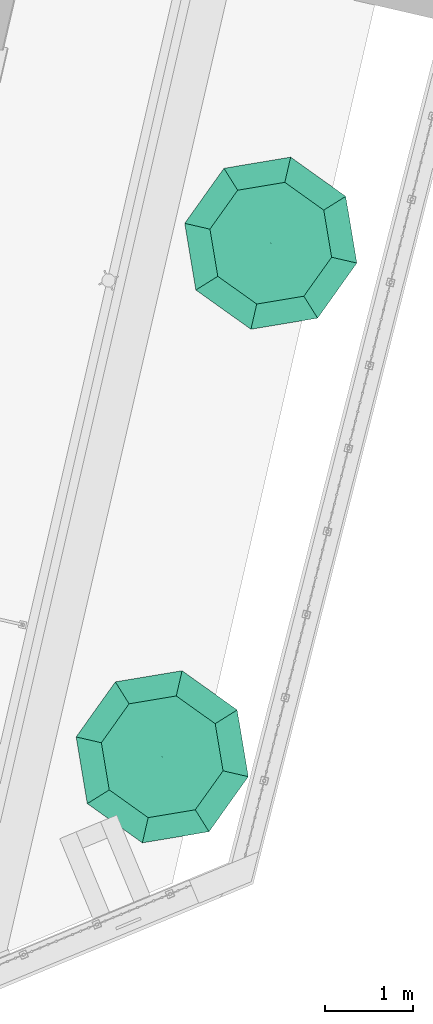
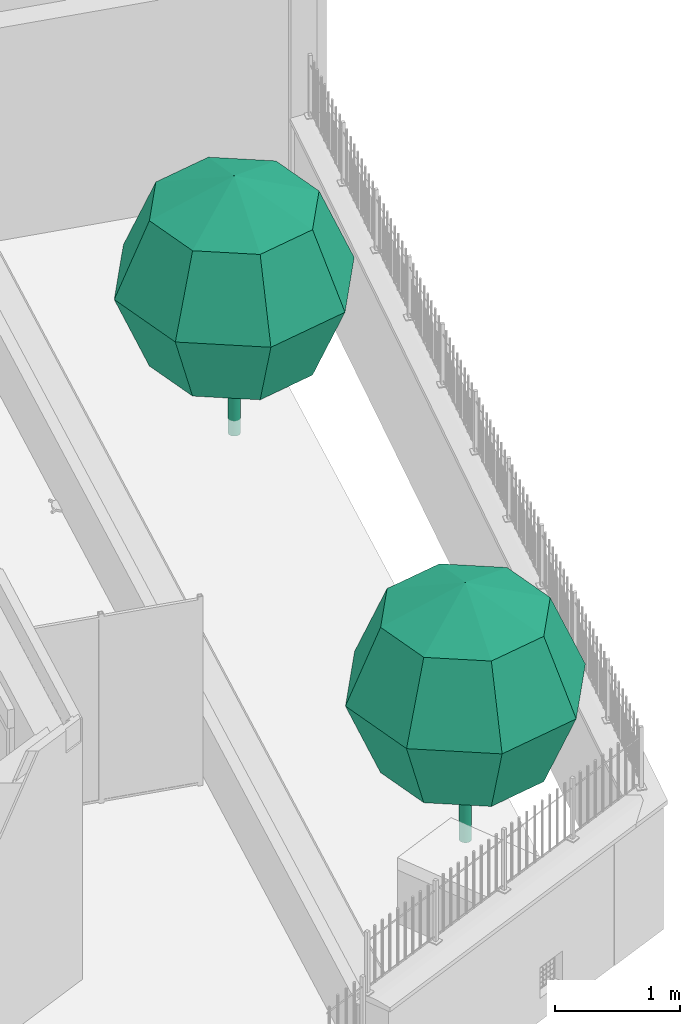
# One storey, part 101 of 119: 2 flow terminals.
"""IFC2X3 building model written with IfcOpenShell, lengths in metres."""

from ifc_helpers import new_model, entity, si_unit, converted_unit, derived_unit, money_unit, direction, frame, origin_with_axes, place, context, subcontext, project, spatial, faceted_brep, source, transform, mapped, type_object, element, save


model = new_model("IFC2X3")

# Units and contexts
model_context = context("Model", 3, precision=1e-05, world=origin_with_axes(), true_north=direction((0.0, 1.0)))
body_context = subcontext(model_context, "Body", "Model", "MODEL_VIEW")
ifc_project = project(units=[si_unit("LENGTHUNIT", "METRE"), si_unit("AREAUNIT", "SQUARE_METRE"), si_unit("VOLUMEUNIT", "CUBIC_METRE"), converted_unit("PLANEANGLEUNIT", "DEGREE", entity("IfcPlaneAngleMeasure", 0.0174532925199), si_unit("PLANEANGLEUNIT", "RADIAN"), dimensions=[0, 0, 0, 0, 0, 0, 0]), si_unit("SOLIDANGLEUNIT", "STERADIAN"), money_unit("EUR"), converted_unit("TIMEUNIT", "Year", entity("IfcTimeMeasure", 31556926.0), si_unit("TIMEUNIT", "SECOND"), dimensions=[0, 0, 1, 0, 0, 0, 0]), si_unit("MASSUNIT", "GRAM", prefix="KILO"), si_unit("THERMODYNAMICTEMPERATUREUNIT", "DEGREE_CELSIUS"), si_unit("LUMINOUSINTENSITYUNIT", "LUMEN"), si_unit("ENERGYUNIT", "JOULE", prefix="MEGA"), derived_unit("THERMALCONDUCTANCEUNIT", [(si_unit("POWERUNIT", "WATT"), 1), (si_unit("LENGTHUNIT", "METRE"), -1), (si_unit("THERMODYNAMICTEMPERATUREUNIT", "KELVIN"), -1)]), derived_unit("SPECIFICHEATCAPACITYUNIT", [(si_unit("ENERGYUNIT", "JOULE"), 1), (si_unit("MASSUNIT", "GRAM", prefix="KILO"), -1), (si_unit("THERMODYNAMICTEMPERATUREUNIT", "KELVIN"), -1)]), derived_unit("MASSDENSITYUNIT", [(si_unit("MASSUNIT", "GRAM", prefix="KILO"), 1), (si_unit("VOLUMEUNIT", "CUBIC_METRE"), -1)])], contexts=[model_context])

# Site, building, storey
site_placement = place(None, origin_with_axes())
site = spatial("IfcSite", under=ifc_project, at=site_placement, Name="Site", CompositionType="ELEMENT")
building_placement = place(site_placement, origin_with_axes())
building = spatial("IfcBuilding", under=site, at=building_placement, Name="Bâtiment", CompositionType="ELEMENT")
storey_placement = place(building_placement, origin_with_axes())
storey = spatial("IfcBuildingStorey", under=building, at=storey_placement, Name="Rez-de-chaussée", CompositionType="ELEMENT", Elevation=0.0)

# Flow terminals
air_terminal_type = type_object("IfcAirTerminalType", Name="Modèle arbre conceptuel 23", PredefinedType="NOTDEFINED")
shared_shape = source(origin_with_axes(), body_context, "Body", "Brep", [
    faceted_brep([(-0.0492403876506, -0.00868240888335, 0.0), (-0.05, 0.0, 0.0), (-0.0492403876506, 0.00868240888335, 0.0), (-0.0469846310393, 0.0171010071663, 0.0), (-0.0433012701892, 0.025, 0.0), (-0.0383022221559, 0.0321393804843, 0.0), (-0.0321393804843, 0.0383022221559, 0.0), (-0.025, 0.0433012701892, 0.0), (-0.0171010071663, 0.0469846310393, 0.0), (-0.00868240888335, 0.0492403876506, 0.0), (0.0, 0.05, 0.0), (0.00868240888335, 0.0492403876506, 0.0), (0.0171010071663, 0.0469846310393, 0.0), (0.025, 0.0433012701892, 0.0), (0.0321393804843, 0.0383022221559, 0.0), (0.0383022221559, 0.0321393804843, 0.0), (0.0433012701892, 0.025, 0.0), (0.0469846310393, 0.0171010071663, 0.0), (0.0492403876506, 0.00868240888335, 0.0), (0.05, 0.0, 0.0), (0.0492403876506, -0.00868240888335, 0.0), (0.0469846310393, -0.0171010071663, 0.0), (0.0433012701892, -0.025, 0.0), (0.0383022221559, -0.0321393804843, 0.0), (0.0321393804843, -0.0383022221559, 0.0), (0.025, -0.0433012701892, 0.0), (0.0171010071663, -0.0469846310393, 0.0), (0.00868240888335, -0.0492403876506, 0.0), (0.0, -0.05, 0.0), (-0.00868240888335, -0.0492403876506, 0.0), (-0.0171010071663, -0.0469846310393, 0.0), (-0.025, -0.0433012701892, 0.0), (-0.0321393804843, -0.0383022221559, 0.0), (-0.0383022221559, -0.0321393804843, 0.0), (-0.0433012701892, -0.025, 0.0), (-0.0469846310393, -0.0171010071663, 0.0), (-0.0492403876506, -0.00868240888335, 0.5), (-0.05, 0.0, 0.5), (-0.0492403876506, 0.00868240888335, 0.5), (-0.0469846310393, 0.0171010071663, 0.5), (-0.0433012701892, 0.025, 0.5), (-0.0383022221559, 0.0321393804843, 0.5), (-0.0321393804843, 0.0383022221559, 0.5), (-0.025, 0.0433012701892, 0.5), (-0.0171010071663, 0.0469846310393, 0.5), (-0.00868240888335, 0.0492403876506, 0.5), (0.0, 0.05, 0.5), (0.00868240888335, 0.0492403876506, 0.5), (0.0171010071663, 0.0469846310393, 0.5), (0.025, 0.0433012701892, 0.5), (0.0321393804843, 0.0383022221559, 0.5), (0.0383022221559, 0.0321393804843, 0.5), (0.0433012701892, 0.025, 0.5), (0.0469846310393, 0.0171010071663, 0.5), (0.0492403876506, 0.00868240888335, 0.5), (0.05, 0.0, 0.5), (0.0492403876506, -0.00868240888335, 0.5), (0.0469846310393, -0.0171010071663, 0.5), (0.0433012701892, -0.025, 0.5), (0.0383022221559, -0.0321393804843, 0.5), (0.0321393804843, -0.0383022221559, 0.5), (0.025, -0.0433012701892, 0.5), (0.0171010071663, -0.0469846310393, 0.5), (0.00868240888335, -0.0492403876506, 0.5), (0.0, -0.05, 0.5), (-0.00868240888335, -0.0492403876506, 0.5), (-0.0171010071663, -0.0469846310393, 0.5), (-0.025, -0.0433012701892, 0.5), (-0.0321393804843, -0.0383022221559, 0.5), (-0.0383022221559, -0.0321393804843, 0.5), (-0.0433012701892, -0.025, 0.5), (-0.0469846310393, -0.0171010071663, 0.5)], [[[0, 1, 2, 3, 4, 5, 6, 7, 8, 9, 10, 11, 12, 13, 14, 15, 16, 17, 18, 19, 20, 21, 22, 23, 24, 25, 26, 27, 28, 29, 30, 31, 32, 33, 34, 35]], [[0, 36, 37, 1]], [[1, 37, 38, 2]], [[2, 38, 39, 3]], [[3, 39, 40, 4]], [[4, 40, 41, 5]], [[5, 41, 42, 6]], [[6, 42, 43, 7]], [[7, 43, 44, 8]], [[8, 44, 45, 9]], [[9, 45, 46, 10]], [[10, 46, 47, 11]], [[11, 47, 48, 12]], [[12, 48, 49, 13]], [[13, 49, 50, 14]], [[14, 50, 51, 15]], [[15, 51, 52, 16]], [[16, 52, 53, 17]], [[17, 53, 54, 18]], [[18, 54, 55, 19]], [[19, 55, 56, 20]], [[20, 56, 57, 21]], [[21, 57, 58, 22]], [[22, 58, 59, 23]], [[23, 59, 60, 24]], [[24, 60, 61, 25]], [[25, 61, 62, 26]], [[26, 62, 63, 27]], [[27, 63, 64, 28]], [[28, 64, 65, 29]], [[29, 65, 66, 30]], [[30, 66, 67, 31]], [[31, 67, 68, 32]], [[32, 68, 69, 33]], [[33, 69, 70, 34]], [[34, 70, 71, 35]], [[35, 71, 36, 0]], [[36, 71, 70, 69, 68, 67, 66, 65, 64, 63, 62, 61, 60, 59, 58, 57, 56, 55, 54, 53, 52, 51, 50, 49, 48, 47, 46, 45, 44, 43, 42, 41, 40, 39, 38, 37]]]),
    faceted_brep([(-0.0492403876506, -0.00868240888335, 0.5), (-0.05, 0.0, 0.5), (-0.0492403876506, 0.00868240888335, 0.5), (-0.0469846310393, 0.0171010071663, 0.5), (-0.0433012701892, 0.025, 0.5), (-0.0383022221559, 0.0321393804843, 0.5), (-0.0321393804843, 0.0383022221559, 0.5), (-0.025, 0.0433012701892, 0.5), (-0.0171010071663, 0.0469846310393, 0.5), (-0.00868240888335, 0.0492403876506, 0.5), (0.0, 0.05, 0.5), (0.00868240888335, 0.0492403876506, 0.5), (0.0171010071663, 0.0469846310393, 0.5), (0.025, 0.0433012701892, 0.5), (0.0321393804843, 0.0383022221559, 0.5), (0.0383022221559, 0.0321393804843, 0.5), (0.0433012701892, 0.025, 0.5), (0.0469846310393, 0.0171010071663, 0.5), (0.0492403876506, 0.00868240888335, 0.5), (0.05, 0.0, 0.5), (0.0492403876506, -0.00868240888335, 0.5), (0.0469846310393, -0.0171010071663, 0.5), (0.0433012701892, -0.025, 0.5), (0.0383022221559, -0.0321393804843, 0.5), (0.0321393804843, -0.0383022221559, 0.5), (0.025, -0.0433012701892, 0.5), (0.0171010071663, -0.0469846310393, 0.5), (0.00868240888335, -0.0492403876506, 0.5), (0.0, -0.05, 0.5), (-0.00868240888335, -0.0492403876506, 0.5), (-0.0171010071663, -0.0469846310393, 0.5), (-0.025, -0.0433012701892, 0.5), (-0.0321393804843, -0.0383022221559, 0.5), (-0.0383022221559, -0.0321393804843, 0.5), (-0.0433012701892, -0.025, 0.5), (-0.0469846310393, -0.0171010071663, 0.5), (0.0, 0.0, 1.5)], [[[0, 1, 2, 3, 4, 5, 6, 7, 8, 9, 10, 11, 12, 13, 14, 15, 16, 17, 18, 19, 20, 21, 22, 23, 24, 25, 26, 27, 28, 29, 30, 31, 32, 33, 34, 35]], [[0, 36, 1]], [[1, 36, 2]], [[2, 36, 3]], [[3, 36, 4]], [[4, 36, 5]], [[5, 36, 6]], [[6, 36, 7]], [[7, 36, 8]], [[8, 36, 9]], [[9, 36, 10]], [[10, 36, 11]], [[11, 36, 12]], [[12, 36, 13]], [[13, 36, 14]], [[14, 36, 15]], [[15, 36, 16]], [[16, 36, 17]], [[17, 36, 18]], [[18, 36, 19]], [[19, 36, 20]], [[20, 36, 21]], [[21, 36, 22]], [[22, 36, 23]], [[23, 36, 24]], [[24, 36, 25]], [[25, 36, 26]], [[26, 36, 27]], [[27, 36, 28]], [[28, 36, 29]], [[29, 36, 30]], [[30, 36, 31]], [[31, 36, 32]], [[32, 36, 33]], [[33, 36, 34]], [[34, 36, 35]], [[35, 36, 0]]]),
    faceted_brep([(-0.707106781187, 0.0, 2.20710678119), (-0.5, -0.5, 2.20710678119), (0.0, 0.0, 2.5), (-1.0, 0.0, 1.5), (-0.707106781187, -0.707106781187, 1.5), (0.0, -0.707106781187, 2.20710678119), (-0.5, 0.5, 2.20710678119), (-0.707106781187, 0.0, 0.792893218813), (-0.5, -0.5, 0.792893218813), (0.0, -1.0, 1.5), (-0.707106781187, 0.707106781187, 1.5), (0.5, -0.5, 2.20710678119), (0.0, 0.707106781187, 2.20710678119), (0.0, 0.0, 0.5), (0.0, -0.707106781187, 0.792893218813), (-0.5, 0.5, 0.792893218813), (0.707106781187, -0.707106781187, 1.5), (0.0, 1.0, 1.5), (0.707106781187, 0.0, 2.20710678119), (0.5, 0.5, 2.20710678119), (0.5, -0.5, 0.792893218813), (0.0, 0.707106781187, 0.792893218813), (1.0, 0.0, 1.5), (0.707106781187, 0.707106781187, 1.5), (0.707106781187, 0.0, 0.792893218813), (0.5, 0.5, 0.792893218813)], [[[0, 1, 2]], [[3, 4, 1, 0]], [[1, 5, 2]], [[6, 0, 2]], [[7, 8, 4, 3]], [[4, 9, 5, 1]], [[10, 3, 0, 6]], [[5, 11, 2]], [[12, 6, 2]], [[13, 8, 7]], [[8, 14, 9, 4]], [[15, 7, 3, 10]], [[9, 16, 11, 5]], [[17, 10, 6, 12]], [[11, 18, 2]], [[19, 12, 2]], [[13, 14, 8]], [[13, 7, 15]], [[14, 20, 16, 9]], [[21, 15, 10, 17]], [[16, 22, 18, 11]], [[23, 17, 12, 19]], [[18, 19, 2]], [[13, 20, 14]], [[13, 15, 21]], [[20, 24, 22, 16]], [[25, 21, 17, 23]], [[22, 23, 19, 18]], [[13, 24, 20]], [[13, 21, 25]], [[24, 25, 23, 22]], [[13, 25, 24]]]),
])
for number, where, z_axis, x_axis in (
    (1, (-2.6503335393, -13.9253094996, 0.0), (0.0, 0.0, 1.0), (-0.224876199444, -0.974387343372, 0.0)),
    (2, (-3.87945735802, -19.7396283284, 0.0), (0.0, 0.0, 1.0), (-0.224876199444, -0.974387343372, 0.0)),
):
    element("IfcFlowTerminal", number, at=place(storey_placement, frame(where, z_axis=z_axis, x_axis=x_axis)), inside=storey, type_object=air_terminal_type, ObjectType="AIR TERMINAL", context=body_context, shape_type="MappedRepresentation", body=[
        mapped(shared_shape, transform((0.0, 0.0, 0.0))),
    ])

save(model, "model.ifc")
